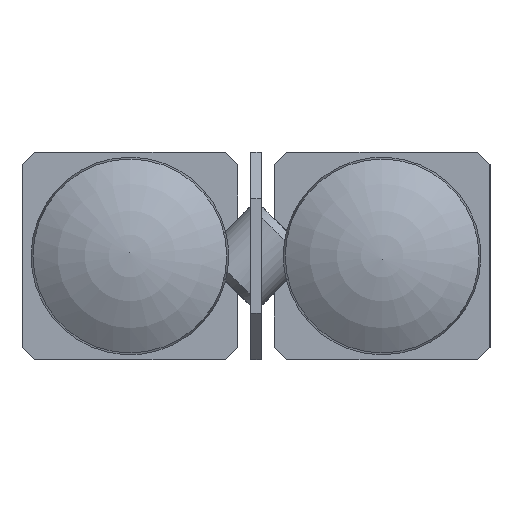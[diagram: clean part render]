
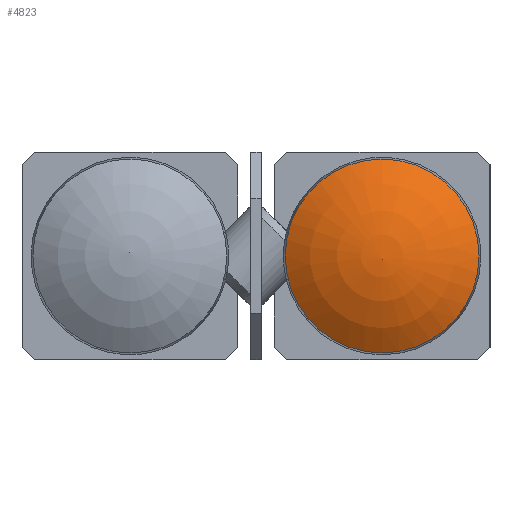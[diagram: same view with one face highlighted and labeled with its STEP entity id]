
A CAD part, left-side view. The second image highlights one B-rep face of the part: STEP entity #4823.
In plain terms, the highlighted toroidal (fillet/blend) face has major radius 0.059 mm and minor radius 6.5 mm.
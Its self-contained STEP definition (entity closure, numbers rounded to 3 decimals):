
#104=VERTEX_LOOP('',#2342);
#108=DEGENERATE_TOROIDAL_SURFACE('',#5179,0.059,6.5,
 .F.);
#240=CIRCLE('',#5178,3.728);
#485=ORIENTED_EDGE('',*,*,#1709,.F.);
#1709=EDGE_CURVE('',#2341,#2341,#240,.T.);
#2341=VERTEX_POINT('',#7201);
#2342=VERTEX_POINT('',#7203);
#3713=EDGE_LOOP('',(#485));
#4191=FACE_BOUND('',#104,.T.);
#4192=FACE_BOUND('',#3713,.T.);
#4823=ADVANCED_FACE('',(#4191,#4192),#108,.F.);
#5178=AXIS2_PLACEMENT_3D('',#7200,#5786,#5787);
#5179=AXIS2_PLACEMENT_3D('',#7202,#5788,#5789);
#5786=DIRECTION('',(1.,0.,0.));
#5787=DIRECTION('',(0.,0.,-1.));
#5788=DIRECTION('',(1.,0.,0.));
#5789=DIRECTION('',(0.,0.,-1.));
#7200=CARTESIAN_POINT('',(1.217,-4.85,0.));
#7201=CARTESIAN_POINT('',(1.217,-4.85,-3.728));
#7202=CARTESIAN_POINT('',(6.5,-4.85,0.));
#7203=CARTESIAN_POINT('',(0.,-4.85,0.));
